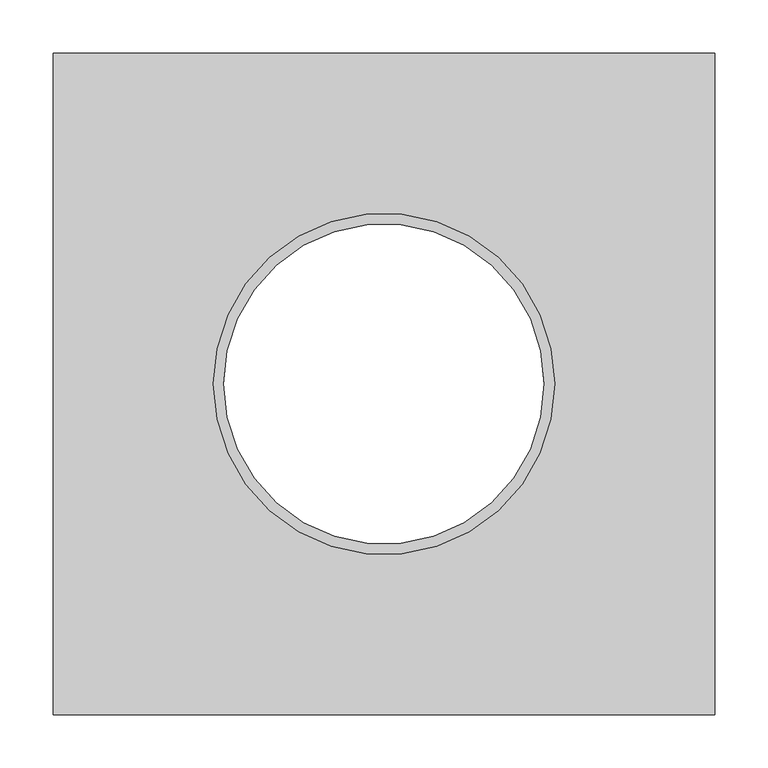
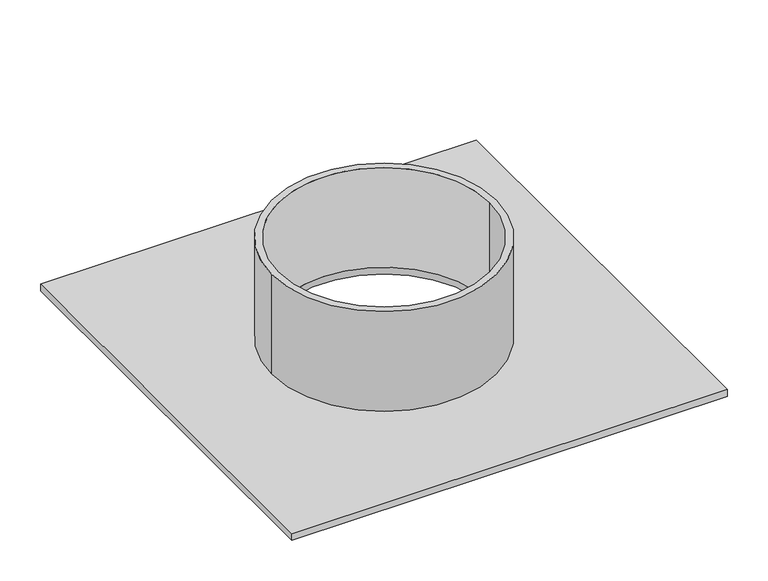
"""IFC4 building model written with IfcOpenShell, lengths in millimetres: proxy geometry, ENG-Volteco_Amphibia Pipe : ENG-Volteco_Amphibia Pipe."""

import ifcopenshell
import ifcopenshell.guid

model = None  # the IFC model being written
_history = None  # IfcOwnerHistory: only IFC2X3 demands one
_inside = {}  # id of a spatial element -> (the spatial element, [elements in it])
_under = {}  # id of a project, library or spatial element -> (it, [spatial elements below it])
_declared = {}  # id of a project -> (the project, [libraries it declares])
_typed = {}  # id of a type object -> (the type object, [elements of that type])
_made_of = {}  # id of a material, layer set ... -> (it, [elements and type objects made of it])


def new_model(schema):
    """Start an empty IFC model of exactly this schema.

    Asked for "IFC4X3", IfcOpenShell would pick the latest addendum, in which some entities
    have other attributes; the version numbers below select the first issue.
    IFC2X3 requires an IfcOwnerHistory on every rooted entity: one is made here for all.
    """
    global model, _history
    if schema == "IFC4X3":
        model = ifcopenshell.file(schema_version=(4, 3, 0, 0))
    else:
        model = ifcopenshell.file(schema=schema)
    _inside.clear()
    _under.clear()
    _declared.clear()
    _typed.clear()
    _made_of.clear()
    _history = None
    if model.schema == "IFC2X3":
        org = make("IfcOrganization", Name="unknown")
        user = make(
            "IfcPersonAndOrganization",
            ThePerson=make("IfcPerson", FamilyName="unknown"),
            TheOrganization=org,
        )
        app = make(
            "IfcApplication",
            ApplicationDeveloper=org,
            Version="unknown",
            ApplicationFullName="unknown",
            ApplicationIdentifier="unknown",
        )
        _history = make(
            "IfcOwnerHistory",
            OwningUser=user,
            OwningApplication=app,
            ChangeAction="ADDED",
            CreationDate=0,
        )
    return model


def make(cls, **values):
    """One entity of the class cls with the attributes given. An attribute that is None is left unset."""
    return model.create_entity(
        cls, **{name: value for name, value in values.items() if value is not None}
    )


def rooted(cls, **values):
    """An entity with a GlobalId (a new one), such as an element, a storey or a relation."""
    return make(cls, GlobalId=ifcopenshell.guid.new(), OwnerHistory=_history, **values)


def si_unit(unit_type, name, prefix=None):
    """IfcSIUnit, for example si_unit("LENGTHUNIT", "METRE", prefix="MILLI")."""
    return make("IfcSIUnit", UnitType=unit_type, Prefix=prefix, Name=name)


def assignment(units):
    """IfcUnitAssignment: the units of a project."""
    return None if units is None else make("IfcUnitAssignment", Units=units)


def point(xyz):
    """IfcCartesianPoint."""
    return None if xyz is None else make("IfcCartesianPoint", Coordinates=xyz)


def direction(xyz):
    """IfcDirection."""
    return None if xyz is None else make("IfcDirection", DirectionRatios=xyz)


def frame(location, z_axis=None, x_axis=None):
    """IfcAxis2Placement3D, a coordinate frame: its origin and axes. An axis left out is left unset."""
    return make(
        "IfcAxis2Placement3D",
        Location=point(location),
        Axis=direction(z_axis),
        RefDirection=direction(x_axis),
    )


def frame_2d(location, x_axis=None):
    """IfcAxis2Placement2D, a coordinate frame in the plane: its origin and x axis."""
    return make(
        "IfcAxis2Placement2D", Location=point(location), RefDirection=direction(x_axis)
    )


def origin():
    """The frame at (0, 0, 0) with its axes left unset."""
    return frame((0.0, 0.0, 0.0))


def origin_with_axes():
    """The frame at (0, 0, 0) with the z axis (0, 0, 1) and the x axis (1, 0, 0) written out."""
    return frame((0.0, 0.0, 0.0), z_axis=(0.0, 0.0, 1.0), x_axis=(1.0, 0.0, 0.0))


def origin_2d():
    """The frame at (0, 0) in the plane with its x axis left unset."""
    return frame_2d((0.0, 0.0))


def place(relative_to, where):
    """IfcLocalPlacement: puts the frame where relative to a parent placement (None: the world)."""
    return make(
        "IfcLocalPlacement", PlacementRelTo=relative_to, RelativePlacement=where
    )


def context(
    kind, dimensions, precision=None, world=None, true_north=None, identifier=None
):
    """IfcGeometricRepresentationContext, for example the 3D "Model" context."""
    return make(
        "IfcGeometricRepresentationContext",
        ContextIdentifier=identifier,
        ContextType=kind,
        CoordinateSpaceDimension=dimensions,
        Precision=precision,
        WorldCoordinateSystem=world,
        TrueNorth=true_north,
    )


def project(units=None, contexts=None):
    """IfcProject with its units and contexts."""
    return rooted(
        "IfcProject",
        Name="project",
        RepresentationContexts=contexts,
        UnitsInContext=assignment(units),
    )


def spatial(cls, under=None, at=None, **own):
    """A site, building, storey or space (cls), placed at a placement, below another one or the project."""
    s = rooted(cls, ObjectPlacement=at, **own)
    if under is not None:
        _under.setdefault(under.id(), (under, []))[1].append(s)
    return s


def polyline(points):
    """IfcPolyline through the points."""
    return make("IfcPolyline", Points=[point(p) for p in points])


def circle_curve(where, radius):
    """IfcCircle in the frame where."""
    return make("IfcCircle", Position=where, Radius=radius)


def trimmed(basis, trim1, trim2, sense, master):
    """IfcTrimmedCurve: the piece of a basis curve between two trims."""
    return make(
        "IfcTrimmedCurve",
        BasisCurve=basis,
        Trim1=trim1,
        Trim2=trim2,
        SenseAgreement=sense,
        MasterRepresentation=master,
    )


def segment(curve, same_sense, transition):
    """IfcCompositeCurveSegment."""
    return make(
        "IfcCompositeCurveSegment",
        Transition=transition,
        SameSense=same_sense,
        ParentCurve=curve,
    )


def composite_curve(segments, self_intersect=None):
    """IfcCompositeCurve: segments joined end to end."""
    return make("IfcCompositeCurve", Segments=segments, SelfIntersect=self_intersect)


def outline(outer, holes=None, kind="AREA"):
    """IfcArbitraryClosedProfileDef: a profile drawn as a closed curve; with holes, ...WithVoids."""
    if holes is None:
        return make("IfcArbitraryClosedProfileDef", ProfileType=kind, OuterCurve=outer)
    return make(
        "IfcArbitraryProfileDefWithVoids",
        ProfileType=kind,
        OuterCurve=outer,
        InnerCurves=holes,
    )


def extrude(swept, where, along, depth):
    """IfcExtrudedAreaSolid: the profile swept, set in the frame where, extruded along a direction by depth."""
    return make(
        "IfcExtrudedAreaSolid",
        SweptArea=swept,
        Position=where,
        ExtrudedDirection=direction(along),
        Depth=depth,
    )


def shape(context_of_items, identifier, shape_type, items):
    """IfcShapeRepresentation: the items that make up one representation, for example the "Body"."""
    return make(
        "IfcShapeRepresentation",
        ContextOfItems=context_of_items,
        RepresentationIdentifier=identifier,
        RepresentationType=shape_type,
        Items=items,
    )


def source(mapping_origin, context_of_items, identifier, shape_type, items):
    """IfcRepresentationMap: a shape defined once, which mapped items show again and again."""
    return make(
        "IfcRepresentationMap",
        MappingOrigin=mapping_origin,
        MappedRepresentation=shape(context_of_items, identifier, shape_type, items),
    )


def transform(
    local_origin,
    x_axis=None,
    y_axis=None,
    z_axis=None,
    scale=None,
    scale2=None,
    scale3=None,
    uniform=True,
):
    """IfcCartesianTransformationOperator3D, or its non-uniform kind. x_axis, y_axis, z_axis: its Axis1, 2, 3."""
    if uniform:
        return make(
            "IfcCartesianTransformationOperator3D",
            Axis1=direction(x_axis),
            Axis2=direction(y_axis),
            LocalOrigin=point(local_origin),
            Scale=scale,
            Axis3=direction(z_axis),
        )
    return make(
        "IfcCartesianTransformationOperator3DnonUniform",
        Axis1=direction(x_axis),
        Axis2=direction(y_axis),
        LocalOrigin=point(local_origin),
        Scale=scale,
        Axis3=direction(z_axis),
        Scale2=scale2,
        Scale3=scale3,
    )


def mapped(mapping_source, mapping_target):
    """IfcMappedItem: shows the shape of a source again, moved by a transform."""
    return make(
        "IfcMappedItem", MappingSource=mapping_source, MappingTarget=mapping_target
    )


def made_of(thing, what):
    """Note that an element or type object is made of a material, layer set ...; save() writes the relation."""
    if what is not None:
        _made_of.setdefault(what.id(), (what, []))[1].append(thing)
    return thing


def element(
    cls,
    number,
    at=None,
    inside=None,
    cuts=None,
    type_object=None,
    material=None,
    context=None,
    identifier="Body",
    shape_type=None,
    held_by="IfcProductDefinitionShape",
    body=None,
    shapes=None,
    **own,
):
    """One element of the class cls, such as IfcWall. Its Tag is "e" and its number.

    at: its placement. inside: the storey or other place that contains it. cuts: it is an
    opening in that element (IfcRelVoidsElement). A single representation is given by context,
    identifier, shape_type and body (its items); several are given by shapes. held_by: the class
    of the entity that holds the representations. save() writes the other relations.
    """
    e = rooted(cls, Tag="e%d" % number, ObjectPlacement=at, **own)
    if body is not None:
        shapes = [shape(context, identifier, shape_type, body)]
    if shapes is not None:
        e.Representation = make(held_by, Representations=shapes)
    if inside is not None:
        _inside.setdefault(inside.id(), (inside, []))[1].append(e)
    if cuts is not None:
        rooted(
            "IfcRelVoidsElement", RelatingBuildingElement=cuts, RelatedOpeningElement=e
        )
    if type_object is not None:
        _typed.setdefault(type_object.id(), (type_object, []))[1].append(e)
    return made_of(e, material)


def aggregate(whole, parts):
    """IfcRelAggregates: a whole, such as a stair, and the parts it consists of."""
    return rooted("IfcRelAggregates", RelatingObject=whole, RelatedObjects=parts)


def save(model, path):
    """Write the relations noted so far, then the file.

    IfcRelAggregates (storeys below a building ...), IfcRelContainedInSpatialStructure (elements
    in a storey), IfcRelDefinesByType, IfcRelAssociatesMaterial and IfcRelDeclares: one each for
    every whole, place, type object, material and project.
    """
    for whole, parts in _under.values():
        aggregate(whole, parts)
    for where, things in _inside.values():
        rooted(
            "IfcRelContainedInSpatialStructure",
            RelatedElements=things,
            RelatingStructure=where,
        )
    for kind, things in _typed.values():
        rooted("IfcRelDefinesByType", RelatedObjects=things, RelatingType=kind)
    for what, things in _made_of.values():
        rooted("IfcRelAssociatesMaterial", RelatedObjects=things, RelatingMaterial=what)
    for by, libraries in _declared.values():
        rooted("IfcRelDeclares", RelatingContext=by, RelatedDefinitions=libraries)
    model.write(path)


def generic_models_91e2fdae(model_context):
    return source(origin(), model_context, "Body", "SweptSolid", [
        extrude(outline(composite_curve([segment(trimmed(circle_curve(origin_2d(), 160.0), [point((-160.0, 0.0))], [point((160.0, 0.0))], False, "CARTESIAN"), True, "CONTINUOUS"), segment(trimmed(circle_curve(origin_2d(), 160.0), [point((160.0, 0.0))], [point((-160.0, 0.0))], False, "CARTESIAN"), True, "CONTINUOUS")], self_intersect=False), holes=[composite_curve([segment(trimmed(circle_curve(origin_2d(), 150.0), [point((-150.0, 0.0))], [point((150.0, 0.0))], True, "CARTESIAN"), True, "CONTINUOUS"), segment(trimmed(circle_curve(origin_2d(), 150.0), [point((150.0, 0.0))], [point((-150.0, 0.0))], True, "CARTESIAN"), True, "CONTINUOUS")], self_intersect=False)]), frame((0.0, 0.0, 10.0), z_axis=(0.0, 0.0, 1.0), x_axis=(1.0, 0.0, 0.0)), (0.0, 0.0, 1.0), 150.0),
        extrude(outline(polyline([(310.0, 310.0), (310.0, -310.0), (-310.0, -310.0), (-310.0, 310.0), (310.0, 310.0)]), holes=[composite_curve([segment(trimmed(circle_curve(origin_2d(), 150.0), [point((-150.0, 0.0))], [point((150.0, 0.0))], True, "CARTESIAN"), True, "CONTINUOUS"), segment(trimmed(circle_curve(origin_2d(), 150.0), [point((150.0, 0.0))], [point((-150.0, 0.0))], True, "CARTESIAN"), True, "CONTINUOUS")], self_intersect=False)]), origin_with_axes(), (0.0, 0.0, 1.0), 10.0),
    ])


if __name__ == "__main__":
    model = new_model("IFC4")
    model_context = context("Model", 3, world=origin())
    ifc_project = project(units=[si_unit("LENGTHUNIT", "METRE", prefix="MILLI")], contexts=[model_context])
    site = spatial("IfcSite", under=ifc_project)
    building = spatial("IfcBuilding", under=site)
    placement = place(None, origin())
    generic_models_shape = generic_models_91e2fdae(model_context)
    element("IfcBuildingElementProxy", 1, Name="ENG-Volteco_Amphibia Pipe : ENG-Volteco_Amphibia Pipe", ObjectType="ENG-Volteco_Amphibia Pipe : ENG-Volteco_Amphibia Pipe", at=placement, inside=building, context=model_context, shape_type="MappedRepresentation", body=[
        mapped(generic_models_shape, transform((0.0, 0.0, 0.0), x_axis=(1.0, 0.0, 0.0), y_axis=(0.0, 1.0, 0.0), z_axis=(0.0, 0.0, 1.0))),
    ])
    save(model, "model.ifc")
